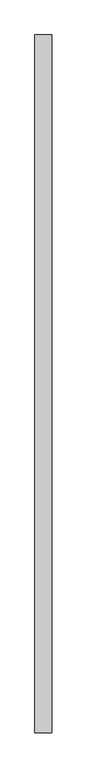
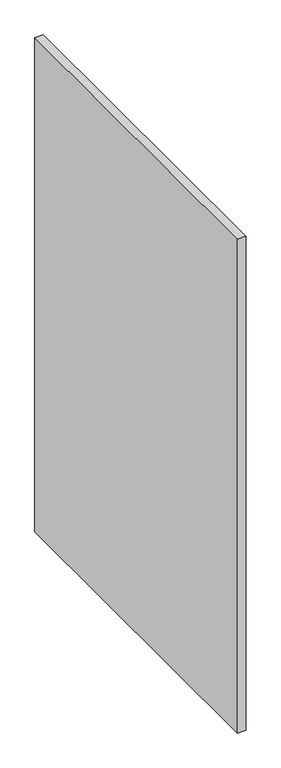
"""IFC4 building model written with IfcOpenShell, lengths in millimetres: furniture geometry, Divisoria_Lateral Fechada : Divisoria_Lateral Fechada_130x180."""

from ifc_helpers import new_model, si_unit, frame, origin, place, context, project, spatial, polyline, outline, extrude, source, transform, mapped, element, save


def furniture_0d5db03c(model_context):
    return source(origin(), model_context, "Body", "SweptSolid", [
        extrude(outline(polyline([(59.7003264, -50.0), (29.7003264, -50.0), (29.7003264, 1195.0), (59.7003264, 1195.0), (59.7003264, -50.0)])), frame((0.0, 0.0, 50.0), z_axis=(0.0, 0.0, 1.0), x_axis=(1.0, 0.0, 0.0)), (0.0, 0.0, 1.0), 1850.0),
    ])


if __name__ == "__main__":
    model = new_model("IFC4")
    model_context = context("Model", 3, world=origin())
    ifc_project = project(units=[si_unit("LENGTHUNIT", "METRE", prefix="MILLI")], contexts=[model_context])
    site = spatial("IfcSite", under=ifc_project)
    building = spatial("IfcBuilding", under=site)
    placement = place(None, origin())
    furniture_shape = furniture_0d5db03c(model_context)
    element("IfcFurniture", 1, ObjectType="Divisoria_Lateral Fechada : Divisoria_Lateral Fechada_130x180", at=placement, inside=building, context=model_context, shape_type="MappedRepresentation", body=[
        mapped(furniture_shape, transform((0.0, 0.0, 0.0), x_axis=(1.0, 0.0, 0.0), y_axis=(0.0, 1.0, 0.0), z_axis=(0.0, 0.0, 1.0))),
    ])
    save(model, "model.ifc")
